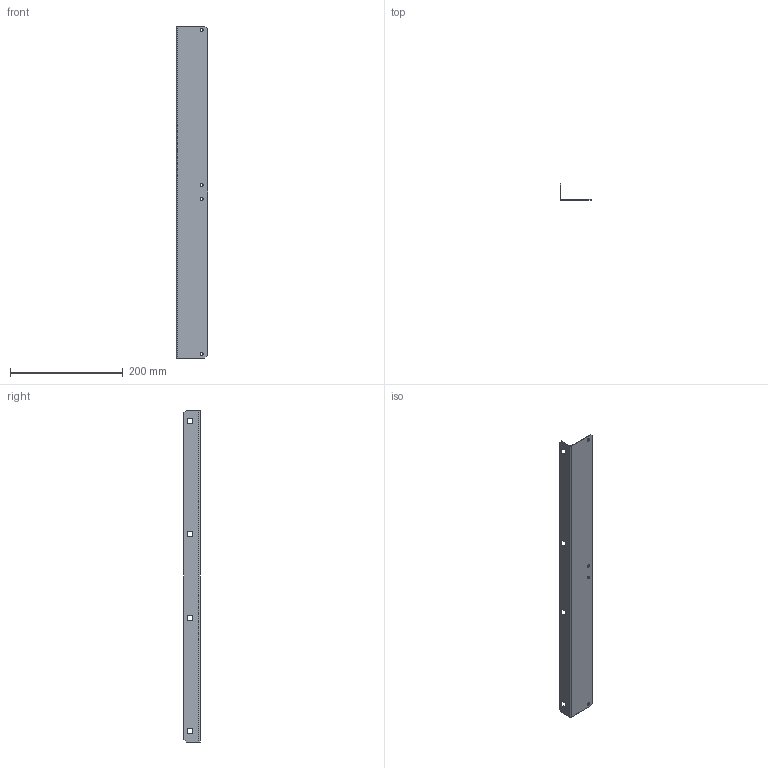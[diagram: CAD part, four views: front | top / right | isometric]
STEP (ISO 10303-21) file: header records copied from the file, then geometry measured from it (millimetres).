
FILE_DESCRIPTION (( 'STEP AP203' ), '1' );
FILE_NAME ('Äåðæàòåëü ïëàñòðîíîâ 600 ìì.STEP', '2025-02-19T15:30:33', ( '' ), ( '' ), 'SwSTEP 2.0', 'SolidWorks 2021', '' );
FILE_SCHEMA (( 'CONFIG_CONTROL_DESIGN' ));
Length unit declared in the file: millimetre
Products named in the file (1): Äåðæàòåëü ïëàñòðîíîâ 600 ìì
Bounding box: 56 x 28.5 x 590 mm (x, y, z)
Volume: 48379.1 mm3; surface area: 98313.4 mm2
Topology: 1 solids, 1 shells, 42 faces, 112 edges, 72 vertices
Faces by surface type: plane 32, cylinder 10
Entity records: 1401 total; most frequent: CARTESIAN_POINT 227, ORIENTED_EDGE 224, DIRECTION 218, EDGE_CURVE 112, VECTOR 92, LINE 92, VERTEX_POINT 72, AXIS2_PLACEMENT_3D 63
